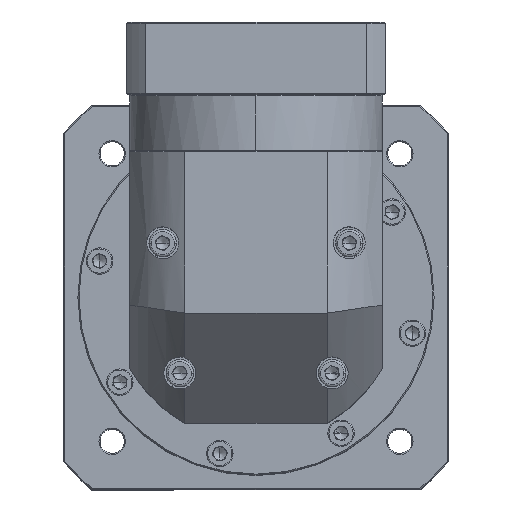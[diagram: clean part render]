
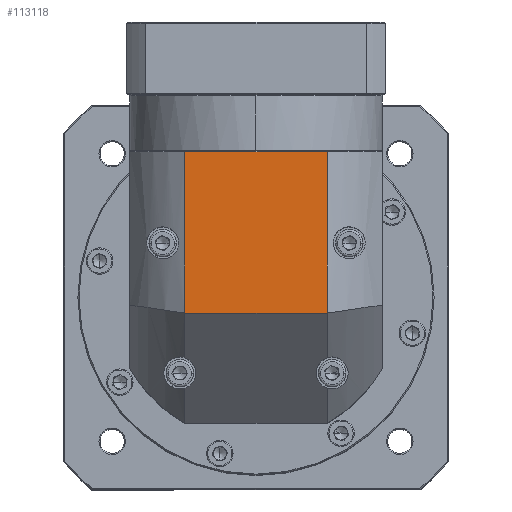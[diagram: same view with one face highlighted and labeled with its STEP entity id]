
A CAD part, top view. The second image highlights one B-rep face of the part: STEP entity #113118.
In plain terms, the highlighted planar face has unit normal (0, 0, 1).
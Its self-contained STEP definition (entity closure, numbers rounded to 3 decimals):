
#527 = CARTESIAN_POINT ( 'NONE',  ( -126.337, 86.247, 96.229 ) ) ;
#953 = VERTEX_POINT ( 'NONE', #55918 ) ;
#2076 = ORIENTED_EDGE ( 'NONE', *, *, #140498, .F. ) ;
#2974 = AXIS2_PLACEMENT_3D ( 'NONE', #3610, #113962, #103702 ) ;
#3610 = CARTESIAN_POINT ( 'NONE',  ( -158.737, 93.747, 96.229 ) ) ;
#4864 = DIRECTION ( 'NONE',  ( 1., 0., 0. ) ) ;
#6416 = LINE ( 'NONE', #35405, #69201 ) ;
#20921 = EDGE_CURVE ( 'NONE', #953, #74459, #77695, .T. ) ;
#22993 = VERTEX_POINT ( 'NONE', #132404 ) ;
#35405 = CARTESIAN_POINT ( 'NONE',  ( -191.137, 36.247, 96.229 ) ) ;
#46201 = VECTOR ( 'NONE', #4864, 1000. ) ;
#52693 = CARTESIAN_POINT ( 'NONE',  ( -126.337, 159.647, 96.229 ) ) ;
#52906 = FACE_OUTER_BOUND ( 'NONE', #68691, .T. ) ;
#54148 = CARTESIAN_POINT ( 'NONE',  ( -126.337, 36.247, 96.229 ) ) ;
#55779 = LINE ( 'NONE', #101162, #100804 ) ;
#55918 = CARTESIAN_POINT ( 'NONE',  ( -191.137, 159.647, 96.229 ) ) ;
#56558 = VERTEX_POINT ( 'NONE', #527 ) ;
#59148 = PLANE ( 'NONE',  #2974 ) ;
#60870 = CARTESIAN_POINT ( 'NONE',  ( -216.237, 159.647, 96.229 ) ) ;
#68691 = EDGE_LOOP ( 'NONE', ( #113372, #118753, #2076, #91610 ) ) ;
#69201 = VECTOR ( 'NONE', #80732, 1000. ) ;
#74459 = VERTEX_POINT ( 'NONE', #52693 ) ;
#77695 = LINE ( 'NONE', #60870, #46201 ) ;
#80732 = DIRECTION ( 'NONE',  ( 0., 1., 0. ) ) ;
#91610 = ORIENTED_EDGE ( 'NONE', *, *, #20921, .F. ) ;
#95860 = LINE ( 'NONE', #54148, #135834 ) ;
#100804 = VECTOR ( 'NONE', #123514, 1000. ) ;
#101162 = CARTESIAN_POINT ( 'NONE',  ( -216.237, 86.247, 96.229 ) ) ;
#103702 = DIRECTION ( 'NONE',  ( 1., 0., 0. ) ) ;
#113118 = ADVANCED_FACE ( 'NONE', ( #52906 ), #59148, .F. ) ;
#113372 = ORIENTED_EDGE ( 'NONE', *, *, #143083, .F. ) ;
#113962 = DIRECTION ( 'NONE',  ( 0., 0., -1. ) ) ;
#118753 = ORIENTED_EDGE ( 'NONE', *, *, #142391, .F. ) ;
#123514 = DIRECTION ( 'NONE',  ( -1., 0., 0. ) ) ;
#130798 = DIRECTION ( 'NONE',  ( 0., -1., 0. ) ) ;
#132404 = CARTESIAN_POINT ( 'NONE',  ( -191.137, 86.247, 96.229 ) ) ;
#135834 = VECTOR ( 'NONE', #130798, 1000. ) ;
#140498 = EDGE_CURVE ( 'NONE', #74459, #56558, #95860, .T. ) ;
#142391 = EDGE_CURVE ( 'NONE', #56558, #22993, #55779, .T. ) ;
#143083 = EDGE_CURVE ( 'NONE', #22993, #953, #6416, .T. ) ;
